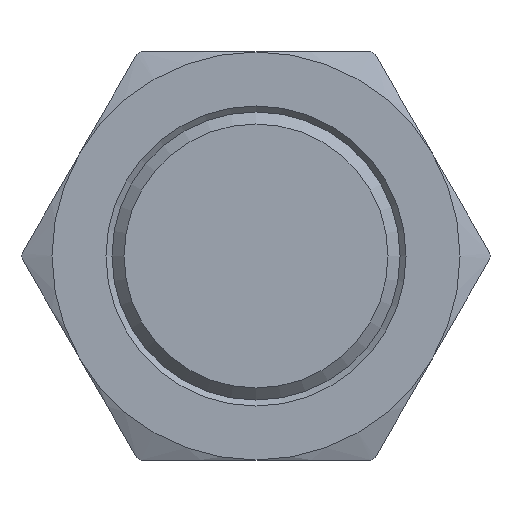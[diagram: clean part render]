
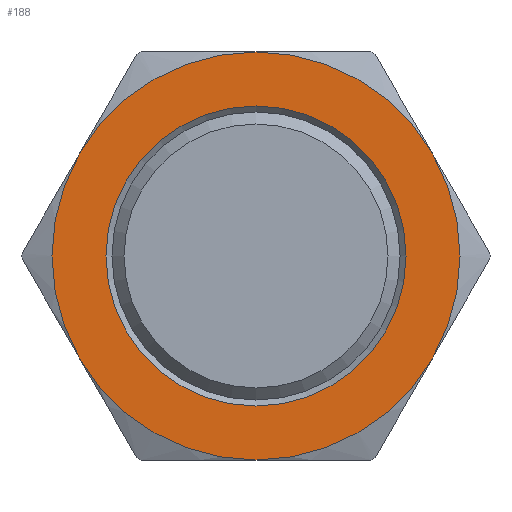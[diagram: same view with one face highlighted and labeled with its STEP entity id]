
A CAD part, front view. The second image highlights one B-rep face of the part: STEP entity #188.
In plain terms, the highlighted planar face has unit normal (0, -1, 0).
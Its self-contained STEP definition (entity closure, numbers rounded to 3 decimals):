
#73=CARTESIAN_POINT('',(5.413,14.5,-3.125));
#74=VERTEX_POINT('',#73);
#75=CARTESIAN_POINT('',(0.,14.5,0.0));
#76=DIRECTION('',(0.0,-1.,0.0));
#77=DIRECTION('',(-0.866,0.0,0.5));
#78=AXIS2_PLACEMENT_3D('',#75,#76,#77);
#79=CIRCLE('',#78,6.25);
#80=EDGE_CURVE('',#74,#74,#79,.T.);
#124=CARTESIAN_POINT('',(6.062,14.5,-3.5));
#125=DIRECTION('',(0.0,-1.0,0.0));
#126=DIRECTION('',(0.5,0.0,0.866));
#127=AXIS2_PLACEMENT_3D('',#124,#125,#126);
#128=PLANE('',#127);
#129=CARTESIAN_POINT('',(7.361,14.5,-4.25));
#130=VERTEX_POINT('',#129);
#131=CARTESIAN_POINT('',(7.361,14.5,4.25));
#132=VERTEX_POINT('',#131);
#133=CARTESIAN_POINT('',(0.,14.5,0.0));
#134=DIRECTION('',(0.,-1.0,0.));
#135=DIRECTION('',(0.866,0.,-0.5));
#136=AXIS2_PLACEMENT_3D('',#133,#134,#135);
#137=CIRCLE('',#136,8.5);
#138=EDGE_CURVE('',#130,#132,#137,.T.);
#139=ORIENTED_EDGE('',*,*,#138,.T.);
#140=CARTESIAN_POINT('',(0.,14.5,8.5));
#141=VERTEX_POINT('',#140);
#142=CARTESIAN_POINT('',(0.,14.5,0.0));
#143=DIRECTION('',(0.,-1.0,0.));
#144=DIRECTION('',(0.866,0.,-0.5));
#145=AXIS2_PLACEMENT_3D('',#142,#143,#144);
#146=CIRCLE('',#145,8.5);
#147=EDGE_CURVE('',#132,#141,#146,.T.);
#148=ORIENTED_EDGE('',*,*,#147,.T.);
#149=CARTESIAN_POINT('',(-7.361,14.5,4.25));
#150=VERTEX_POINT('',#149);
#151=CARTESIAN_POINT('',(0.,14.5,0.0));
#152=DIRECTION('',(0.,-1.0,0.));
#153=DIRECTION('',(0.866,0.,-0.5));
#154=AXIS2_PLACEMENT_3D('',#151,#152,#153);
#155=CIRCLE('',#154,8.5);
#156=EDGE_CURVE('',#141,#150,#155,.T.);
#157=ORIENTED_EDGE('',*,*,#156,.T.);
#158=CARTESIAN_POINT('',(-7.361,14.5,-4.25));
#159=VERTEX_POINT('',#158);
#160=CARTESIAN_POINT('',(0.,14.5,0.0));
#161=DIRECTION('',(0.,-1.0,0.));
#162=DIRECTION('',(0.866,0.,-0.5));
#163=AXIS2_PLACEMENT_3D('',#160,#161,#162);
#164=CIRCLE('',#163,8.5);
#165=EDGE_CURVE('',#150,#159,#164,.T.);
#166=ORIENTED_EDGE('',*,*,#165,.T.);
#167=CARTESIAN_POINT('',(0.,14.5,-8.5));
#168=VERTEX_POINT('',#167);
#169=CARTESIAN_POINT('',(0.,14.5,0.0));
#170=DIRECTION('',(0.,-1.0,0.));
#171=DIRECTION('',(0.866,0.,-0.5));
#172=AXIS2_PLACEMENT_3D('',#169,#170,#171);
#173=CIRCLE('',#172,8.5);
#174=EDGE_CURVE('',#159,#168,#173,.T.);
#175=ORIENTED_EDGE('',*,*,#174,.T.);
#176=CARTESIAN_POINT('',(0.,14.5,0.0));
#177=DIRECTION('',(0.,-1.0,0.));
#178=DIRECTION('',(0.866,0.,-0.5));
#179=AXIS2_PLACEMENT_3D('',#176,#177,#178);
#180=CIRCLE('',#179,8.5);
#181=EDGE_CURVE('',#168,#130,#180,.T.);
#182=ORIENTED_EDGE('',*,*,#181,.T.);
#183=EDGE_LOOP('',(#139,#148,#157,#166,#175,#182));
#184=FACE_OUTER_BOUND('',#183,.T.);
#185=ORIENTED_EDGE('',*,*,#80,.F.);
#186=EDGE_LOOP('',(#185));
#187=FACE_BOUND('',#186,.T.);
#188=ADVANCED_FACE('',(#184,#187),#128,.T.);
